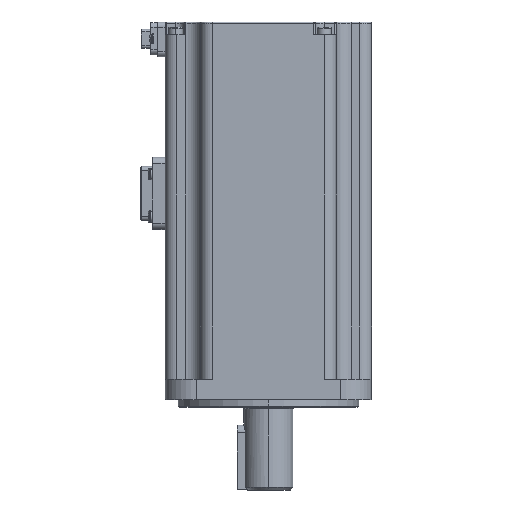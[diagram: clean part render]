
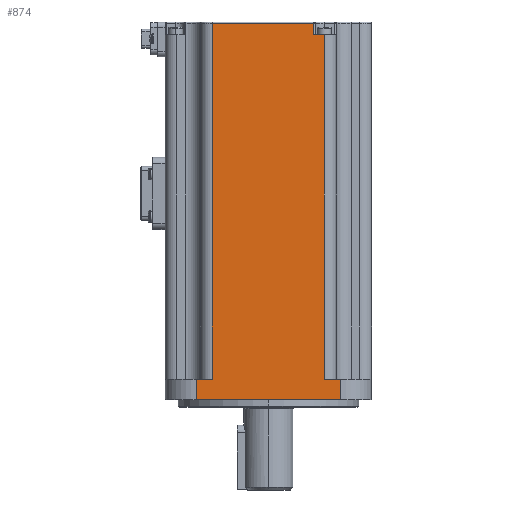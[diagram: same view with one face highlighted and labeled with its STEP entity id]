
A CAD part, left-side view. The second image highlights one B-rep face of the part: STEP entity #874.
In plain terms, the highlighted planar face has unit normal (-1, 0, 0).
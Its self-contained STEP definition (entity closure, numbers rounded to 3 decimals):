
#874 = ADVANCED_FACE ( 'NONE', ( #24922 ), #42108, .F. ) ;
#929 = CARTESIAN_POINT ( 'NONE',  ( -61.674, 57.636, 119.3 ) ) ;
#2221 = DIRECTION ( 'NONE',  ( 0., 0., 1. ) ) ;
#2499 = LINE ( 'NONE', #46260, #48626 ) ;
#2926 = CARTESIAN_POINT ( 'NONE',  ( -61.674, 51.386, 250.8 ) ) ;
#3073 = CARTESIAN_POINT ( 'NONE',  ( -61.674, 1.636, 127.3 ) ) ;
#3180 = EDGE_CURVE ( 'NONE', #21062, #41925, #8702, .T. ) ;
#3497 = DIRECTION ( 'NONE',  ( 0., -1., 0. ) ) ;
#3502 = LINE ( 'NONE', #20371, #49726 ) ;
#3941 = ORIENTED_EDGE ( 'NONE', *, *, #36422, .T. ) ;
#4319 = VECTOR ( 'NONE', #20397, 1000. ) ;
#4760 = VECTOR ( 'NONE', #55159, 1000. ) ;
#5101 = CARTESIAN_POINT ( 'NONE',  ( -61.674, 57.636, 127.3 ) ) ;
#5363 = ORIENTED_EDGE ( 'NONE', *, *, #3180, .F. ) ;
#7471 = CARTESIAN_POINT ( 'NONE',  ( -61.674, 51.386, 265.3 ) ) ;
#8333 = ORIENTED_EDGE ( 'NONE', *, *, #40785, .F. ) ;
#8702 = LINE ( 'NONE', #9551, #11252 ) ;
#8870 = CARTESIAN_POINT ( 'NONE',  ( -61.674, 69.636, 127.3 ) ) ;
#9551 = CARTESIAN_POINT ( 'NONE',  ( -61.674, 7.886, 250.8 ) ) ;
#9570 = LINE ( 'NONE', #21583, #48270 ) ;
#11252 = VECTOR ( 'NONE', #52459, 1000. ) ;
#11599 = DIRECTION ( 'NONE',  ( 0., -1., 0. ) ) ;
#12031 = EDGE_CURVE ( 'NONE', #23021, #21062, #28464, .T. ) ;
#13136 = DIRECTION ( 'NONE',  ( 0., 0., -1. ) ) ;
#15718 = LINE ( 'NONE', #33106, #4760 ) ;
#16555 = CARTESIAN_POINT ( 'NONE',  ( -61.674, 7.886, 127.3 ) ) ;
#16665 = VERTEX_POINT ( 'NONE', #29840 ) ;
#18234 = EDGE_CURVE ( 'NONE', #21955, #36673, #3502, .T. ) ;
#18263 = LINE ( 'NONE', #5101, #24828 ) ;
#18766 = ORIENTED_EDGE ( 'NONE', *, *, #28459, .T. ) ;
#18921 = ORIENTED_EDGE ( 'NONE', *, *, #55753, .T. ) ;
#20018 = CARTESIAN_POINT ( 'NONE',  ( -61.674, 7.886, 260.8 ) ) ;
#20028 = EDGE_CURVE ( 'NONE', #21955, #49802, #15718, .T. ) ;
#20371 = CARTESIAN_POINT ( 'NONE',  ( -61.674, 69.636, 119.3 ) ) ;
#20397 = DIRECTION ( 'NONE',  ( 0., 0., -1. ) ) ;
#21062 = VERTEX_POINT ( 'NONE', #20018 ) ;
#21583 = CARTESIAN_POINT ( 'NONE',  ( -61.674, 51.386, 265.3 ) ) ;
#21955 = VERTEX_POINT ( 'NONE', #43420 ) ;
#22736 = EDGE_CURVE ( 'NONE', #41925, #49802, #48069, .T. ) ;
#23021 = VERTEX_POINT ( 'NONE', #42009 ) ;
#24714 = EDGE_LOOP ( 'NONE', ( #3941, #8333, #18921, #35947, #42123, #28225, #5363, #44076, #56037, #18766 ) ) ;
#24828 = VECTOR ( 'NONE', #13136, 1000. ) ;
#24922 = FACE_OUTER_BOUND ( 'NONE', #24714, .T. ) ;
#26991 = DIRECTION ( 'NONE',  ( 0., 1., 0. ) ) ;
#28225 = ORIENTED_EDGE ( 'NONE', *, *, #22736, .F. ) ;
#28459 = EDGE_CURVE ( 'NONE', #33771, #47266, #9570, .T. ) ;
#28464 = LINE ( 'NONE', #28744, #32871 ) ;
#28744 = CARTESIAN_POINT ( 'NONE',  ( -61.674, 11.505, 260.8 ) ) ;
#28931 = DIRECTION ( 'NONE',  ( 0., 1., 0. ) ) ;
#29840 = CARTESIAN_POINT ( 'NONE',  ( -61.674, 57.636, 127.3 ) ) ;
#29917 = CARTESIAN_POINT ( 'NONE',  ( -61.674, 51.386, 127.3 ) ) ;
#32871 = VECTOR ( 'NONE', #47071, 1000. ) ;
#33106 = CARTESIAN_POINT ( 'NONE',  ( -61.674, 1.636, 127.3 ) ) ;
#33228 = LINE ( 'NONE', #54721, #4319 ) ;
#33771 = VERTEX_POINT ( 'NONE', #45853 ) ;
#35947 = ORIENTED_EDGE ( 'NONE', *, *, #18234, .F. ) ;
#36422 = EDGE_CURVE ( 'NONE', #47266, #56159, #33228, .T. ) ;
#36673 = VERTEX_POINT ( 'NONE', #929 ) ;
#37887 = CARTESIAN_POINT ( 'NONE',  ( -61.674, 69.636, 127.3 ) ) ;
#39367 = AXIS2_PLACEMENT_3D ( 'NONE', #2926, #46975, #3497 ) ;
#39580 = VECTOR ( 'NONE', #11599, 1000. ) ;
#40785 = EDGE_CURVE ( 'NONE', #16665, #56159, #54477, .T. ) ;
#41925 = VERTEX_POINT ( 'NONE', #16555 ) ;
#42009 = CARTESIAN_POINT ( 'NONE',  ( -61.674, 12.005, 260.8 ) ) ;
#42108 = PLANE ( 'NONE',  #39367 ) ;
#42123 = ORIENTED_EDGE ( 'NONE', *, *, #20028, .T. ) ;
#43420 = CARTESIAN_POINT ( 'NONE',  ( -61.674, 1.636, 119.3 ) ) ;
#43769 = DIRECTION ( 'NONE',  ( 0., -1., 0. ) ) ;
#44076 = ORIENTED_EDGE ( 'NONE', *, *, #12031, .F. ) ;
#44138 = VECTOR ( 'NONE', #43769, 1000. ) ;
#45853 = CARTESIAN_POINT ( 'NONE',  ( -61.674, 12.005, 265.3 ) ) ;
#46260 = CARTESIAN_POINT ( 'NONE',  ( -61.674, 12.005, 265.8 ) ) ;
#46975 = DIRECTION ( 'NONE',  ( 1., 0., 0. ) ) ;
#47071 = DIRECTION ( 'NONE',  ( 0., -1., 0. ) ) ;
#47266 = VERTEX_POINT ( 'NONE', #7471 ) ;
#48069 = LINE ( 'NONE', #8870, #44138 ) ;
#48270 = VECTOR ( 'NONE', #26991, 1000. ) ;
#48626 = VECTOR ( 'NONE', #2221, 1000. ) ;
#49726 = VECTOR ( 'NONE', #28931, 1000. ) ;
#49802 = VERTEX_POINT ( 'NONE', #3073 ) ;
#52459 = DIRECTION ( 'NONE',  ( 0., 0., -1. ) ) ;
#54477 = LINE ( 'NONE', #37887, #39580 ) ;
#54675 = EDGE_CURVE ( 'NONE', #23021, #33771, #2499, .T. ) ;
#54721 = CARTESIAN_POINT ( 'NONE',  ( -61.674, 51.386, 250.8 ) ) ;
#55159 = DIRECTION ( 'NONE',  ( 0., 0., 1. ) ) ;
#55753 = EDGE_CURVE ( 'NONE', #16665, #36673, #18263, .T. ) ;
#56037 = ORIENTED_EDGE ( 'NONE', *, *, #54675, .T. ) ;
#56159 = VERTEX_POINT ( 'NONE', #29917 ) ;
